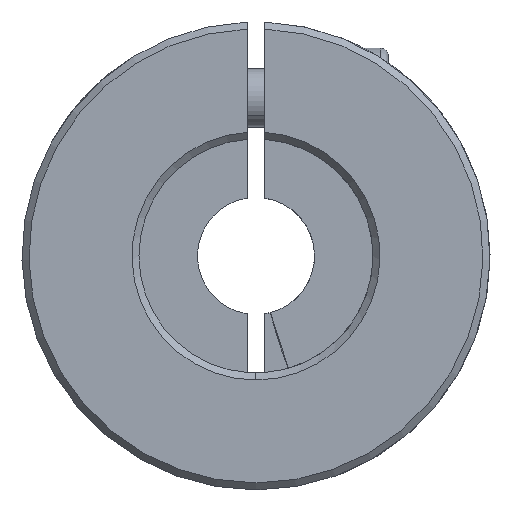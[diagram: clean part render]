
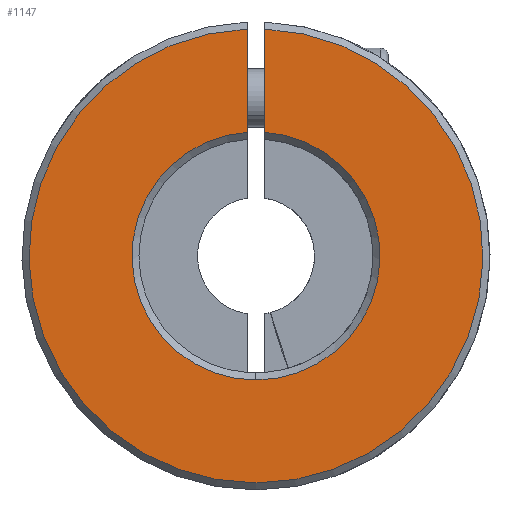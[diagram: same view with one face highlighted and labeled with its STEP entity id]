
A CAD part, front view. The second image highlights one B-rep face of the part: STEP entity #1147.
In plain terms, the highlighted planar face has unit normal (0, -1, 0).
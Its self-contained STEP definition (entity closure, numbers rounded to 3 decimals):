
#40 = CARTESIAN_POINT ( 'NONE',  ( 0., -25., -10.6 ) ) ;
#114 = DIRECTION ( 'NONE',  ( 0., -1., 0. ) ) ;
#166 = CARTESIAN_POINT ( 'NONE',  ( -0.75, -25., 10.573 ) ) ;
#398 = CARTESIAN_POINT ( 'NONE',  ( 0.75, -25., -10. ) ) ;
#426 = DIRECTION ( 'NONE',  ( 0., 0., -1. ) ) ;
#463 = PLANE ( 'NONE',  #1616 ) ;
#819 = AXIS2_PLACEMENT_3D ( 'NONE', #2936, #4400, #4283 ) ;
#1147 = ADVANCED_FACE ( 'NONE', ( #2701 ), #463, .F. ) ;
#1284 = DIRECTION ( 'NONE',  ( 0., 1., 0. ) ) ;
#1307 = VERTEX_POINT ( 'NONE', #5894 ) ;
#1338 = CARTESIAN_POINT ( 'NONE',  ( 0., -25., 0. ) ) ;
#1384 = LINE ( 'NONE', #398, #5703 ) ;
#1494 = ORIENTED_EDGE ( 'NONE', *, *, #1851, .T. ) ;
#1597 = CIRCLE ( 'NONE', #819, 10.6 ) ;
#1616 = AXIS2_PLACEMENT_3D ( 'NONE', #1338, #3674, #4133 ) ;
#1672 = EDGE_CURVE ( 'NONE', #2443, #1910, #5931, .T. ) ;
#1818 = DIRECTION ( 'NONE',  ( 0., 0., 1. ) ) ;
#1841 = CARTESIAN_POINT ( 'NONE',  ( -0.75, -25., -10. ) ) ;
#1851 = EDGE_CURVE ( 'NONE', #1307, #2360, #5541, .T. ) ;
#1910 = VERTEX_POINT ( 'NONE', #2896 ) ;
#2124 = VERTEX_POINT ( 'NONE', #166 ) ;
#2360 = VERTEX_POINT ( 'NONE', #40 ) ;
#2443 = VERTEX_POINT ( 'NONE', #4322 ) ;
#2701 = FACE_OUTER_BOUND ( 'NONE', #3120, .T. ) ;
#2783 = CARTESIAN_POINT ( 'NONE',  ( 0., -25., 0. ) ) ;
#2852 = EDGE_CURVE ( 'NONE', #1910, #1307, #1384, .T. ) ;
#2896 = CARTESIAN_POINT ( 'NONE',  ( 0.75, -25., 19.385 ) ) ;
#2936 = CARTESIAN_POINT ( 'NONE',  ( 0., -25., 0. ) ) ;
#2964 = CARTESIAN_POINT ( 'NONE',  ( 0., -25., 0. ) ) ;
#2977 = EDGE_CURVE ( 'NONE', #2360, #2124, #1597, .T. ) ;
#3120 = EDGE_LOOP ( 'NONE', ( #3843, #1494, #5214, #4106, #3398 ) ) ;
#3316 = VECTOR ( 'NONE', #4629, 1000. ) ;
#3398 = ORIENTED_EDGE ( 'NONE', *, *, #1672, .T. ) ;
#3674 = DIRECTION ( 'NONE',  ( 0., 1., 0. ) ) ;
#3843 = ORIENTED_EDGE ( 'NONE', *, *, #2852, .T. ) ;
#3844 = DIRECTION ( 'NONE',  ( 0., 0., 1. ) ) ;
#4106 = ORIENTED_EDGE ( 'NONE', *, *, #5204, .T. ) ;
#4133 = DIRECTION ( 'NONE',  ( 0., 0., 1. ) ) ;
#4283 = DIRECTION ( 'NONE',  ( 0., 0., 1. ) ) ;
#4322 = CARTESIAN_POINT ( 'NONE',  ( -0.75, -25., 19.385 ) ) ;
#4400 = DIRECTION ( 'NONE',  ( 0., 1., 0. ) ) ;
#4629 = DIRECTION ( 'NONE',  ( 0., 0., 1. ) ) ;
#4871 = AXIS2_PLACEMENT_3D ( 'NONE', #2783, #1284, #1818 ) ;
#5204 = EDGE_CURVE ( 'NONE', #2124, #2443, #5594, .T. ) ;
#5214 = ORIENTED_EDGE ( 'NONE', *, *, #2977, .T. ) ;
#5350 = AXIS2_PLACEMENT_3D ( 'NONE', #2964, #114, #3844 ) ;
#5541 = CIRCLE ( 'NONE', #4871, 10.6 ) ;
#5594 = LINE ( 'NONE', #1841, #3316 ) ;
#5703 = VECTOR ( 'NONE', #426, 1000. ) ;
#5894 = CARTESIAN_POINT ( 'NONE',  ( 0.75, -25., 10.573 ) ) ;
#5931 = CIRCLE ( 'NONE', #5350, 19.4 ) ;
